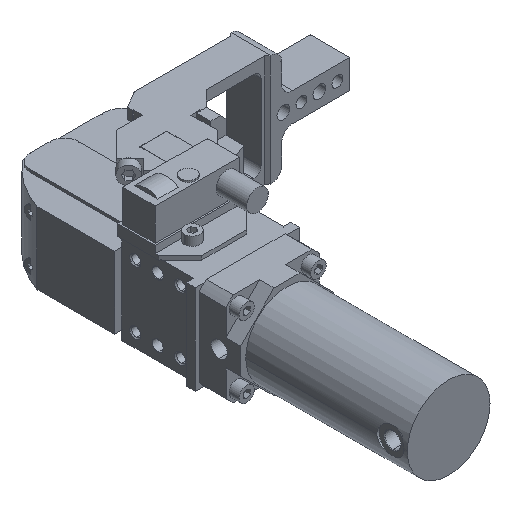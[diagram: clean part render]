
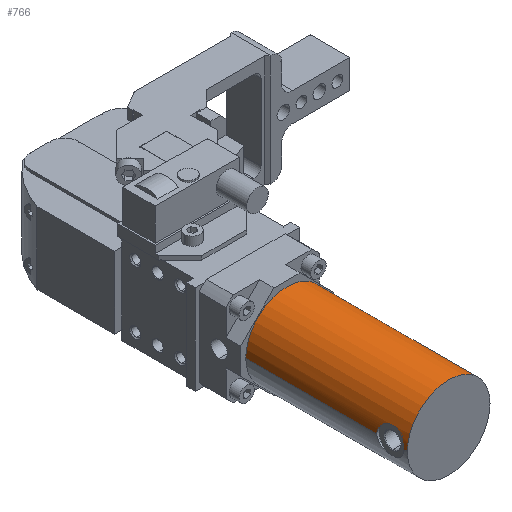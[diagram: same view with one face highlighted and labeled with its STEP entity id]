
A CAD part, isometric view. The second image highlights one B-rep face of the part: STEP entity #766.
In plain terms, the highlighted cylindrical face has radius 23 mm (diameter 46 mm), a partial arc.
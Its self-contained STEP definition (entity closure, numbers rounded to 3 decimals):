
#59 = CARTESIAN_POINT ( 'NONE',  ( -7.332, 101.922, 21.8 ) ) ;
#124 = CARTESIAN_POINT ( 'NONE',  ( -7.241, 101.501, 21.83 ) ) ;
#162 = CARTESIAN_POINT ( 'NONE',  ( -3.855, 97.063, 22.675 ) ) ;
#181 = CARTESIAN_POINT ( 'NONE',  ( -3.302, 96.753, 22.765 ) ) ;
#234 = CARTESIAN_POINT ( 'NONE',  ( -2.917, 96.577, 22.818 ) ) ;
#251 = CARTESIAN_POINT ( 'NONE',  ( -6.609, 99.929, 22.031 ) ) ;
#284 = CARTESIAN_POINT ( 'NONE',  ( -6.799, 100.305, 21.973 ) ) ;
#350 = CARTESIAN_POINT ( 'NONE',  ( -7.115, 101.09, 21.873 ) ) ;
#367 = CARTESIAN_POINT ( 'NONE',  ( -5.903, 98.869, 22.23 ) ) ;
#380 = CARTESIAN_POINT ( 'NONE',  ( -6.156, 99.21, 22.161 ) ) ;
#472 = CARTESIAN_POINT ( 'NONE',  ( -6.276, 99.388, 22.128 ) ) ;
#495 = CARTESIAN_POINT ( 'NONE',  ( -5.051, 97.94, 22.441 ) ) ;
#587 = CARTESIAN_POINT ( 'NONE',  ( -5.354, 98.231, 22.37 ) ) ;
#621 = CARTESIAN_POINT ( 'NONE',  ( -5.771, 98.705, 22.265 ) ) ;
#678 = CARTESIAN_POINT ( 'NONE',  ( -4.558, 97.54, 22.545 ) ) ;
#693 = CARTESIAN_POINT ( 'NONE',  ( -4.386, 97.412, 22.579 ) ) ;
#708 = CARTESIAN_POINT ( 'NONE',  ( -4.035, 97.174, 22.644 ) ) ;
#766 = ADVANCED_FACE ( 'NONE', ( #12748 ), #12664, .T. ) ;
#794 = CARTESIAN_POINT ( 'NONE',  ( -2.312, 96.362, 22.884 ) ) ;
#810 = CARTESIAN_POINT ( 'NONE',  ( -2.106, 96.299, 22.904 ) ) ;
#899 = CARTESIAN_POINT ( 'NONE',  ( -1.693, 96.191, 22.939 ) ) ;
#932 = CARTESIAN_POINT ( 'NONE',  ( -1.485, 96.145, 22.953 ) ) ;
#1009 = CARTESIAN_POINT ( 'NONE',  ( -0.856, 96.037, 22.988 ) ) ;
#1027 = CARTESIAN_POINT ( 'NONE',  ( -0.431, 96., 23. ) ) ;
#1049 = CARTESIAN_POINT ( 'NONE',  ( 0., 96., 23. ) ) ;
#1551 = EDGE_CURVE ( 'NONE', #4452, #2386, #12392, .T. ) ;
#1585 = CARTESIAN_POINT ( 'NONE',  ( 0., 113., 23. ) ) ;
#2128 = AXIS2_PLACEMENT_3D ( 'NONE', #8647, #6946, #5404 ) ;
#2386 = VERTEX_POINT ( 'NONE', #14354 ) ;
#2931 = DIRECTION ( 'NONE',  ( 0., 0., -1. ) ) ;
#2937 = DIRECTION ( 'NONE',  ( 0., -1., 0. ) ) ;
#3011 = CARTESIAN_POINT ( 'NONE',  ( 0., 113., 0. ) ) ;
#3183 = ORIENTED_EDGE ( 'NONE', *, *, #14888, .F. ) ;
#3235 = LINE ( 'NONE', #1585, #11136 ) ;
#3949 = DIRECTION ( 'NONE',  ( 0., -1., 0. ) ) ;
#3967 = CARTESIAN_POINT ( 'NONE',  ( -7.332, 113., 21.8 ) ) ;
#3984 = LINE ( 'NONE', #3967, #10669 ) ;
#3988 = ORIENTED_EDGE ( 'NONE', *, *, #6975, .F. ) ;
#4142 = CIRCLE ( 'NONE', #2128, 23. ) ;
#4180 = AXIS2_PLACEMENT_3D ( 'NONE', #9432, #7725, #6186 ) ;
#4452 = VERTEX_POINT ( 'NONE', #8466 ) ;
#4539 = VERTEX_POINT ( 'NONE', #5513 ) ;
#5134 = EDGE_CURVE ( 'NONE', #10364, #4539, #5431, .T. ) ;
#5141 = VERTEX_POINT ( 'NONE', #9963 ) ;
#5404 = DIRECTION ( 'NONE',  ( 0., 0., 1. ) ) ;
#5431 = B_SPLINE_CURVE_WITH_KNOTS ( 'NONE', 3,
 ( #10591, #10314, #10282, #10272, #10263, #10250, #10235, #10225, #10214, #10187, #10171, #10162, #10118, #10095, #10083, #10070 ),
 .UNSPECIFIED., .F., .F.,
 ( 4, 2, 2, 2, 2, 2, 2, 4 ),
 ( 0., 0.003, 0.004, 0.005, 0.006, 0.008, 0.009, 0.01 ),
 .UNSPECIFIED. ) ;
#5513 = CARTESIAN_POINT ( 'NONE',  ( 0., 111., 23. ) ) ;
#5532 = CARTESIAN_POINT ( 'NONE',  ( 0., 23., -23. ) ) ;
#5666 = EDGE_CURVE ( 'NONE', #10364, #2386, #3984, .T. ) ;
#5804 = CIRCLE ( 'NONE', #4180, 23. ) ;
#6186 = DIRECTION ( 'NONE',  ( 0., 0., 1. ) ) ;
#6245 = VERTEX_POINT ( 'NONE', #5532 ) ;
#6572 = VECTOR ( 'NONE', #8085, 1000. ) ;
#6946 = DIRECTION ( 'NONE',  ( 0., 1., 0. ) ) ;
#6975 = EDGE_CURVE ( 'NONE', #5141, #4539, #3235, .T. ) ;
#7282 = ORIENTED_EDGE ( 'NONE', *, *, #5666, .F. ) ;
#7445 = EDGE_CURVE ( 'NONE', #4452, #14040, #11131, .T. ) ;
#7565 = EDGE_LOOP ( 'NONE', ( #3988, #3183, #7799, #9654, #7888, #8873, #7282, #8322 ) ) ;
#7605 = EDGE_CURVE ( 'NONE', #14521, #6245, #14344, .T. ) ;
#7725 = DIRECTION ( 'NONE',  ( 0., 1., 0. ) ) ;
#7799 = ORIENTED_EDGE ( 'NONE', *, *, #7605, .T. ) ;
#7888 = ORIENTED_EDGE ( 'NONE', *, *, #7445, .F. ) ;
#8085 = DIRECTION ( 'NONE',  ( 0., -1., 0. ) ) ;
#8322 = ORIENTED_EDGE ( 'NONE', *, *, #5134, .T. ) ;
#8466 = CARTESIAN_POINT ( 'NONE',  ( 0., 96., 23. ) ) ;
#8647 = CARTESIAN_POINT ( 'NONE',  ( 0., 113., 0. ) ) ;
#8873 = ORIENTED_EDGE ( 'NONE', *, *, #1551, .T. ) ;
#9330 = VECTOR ( 'NONE', #10248, 1000. ) ;
#9432 = CARTESIAN_POINT ( 'NONE',  ( 0., 23., 0. ) ) ;
#9654 = ORIENTED_EDGE ( 'NONE', *, *, #13364, .T. ) ;
#9729 = CARTESIAN_POINT ( 'NONE',  ( 0., 113., 23. ) ) ;
#9963 = CARTESIAN_POINT ( 'NONE',  ( 0., 113., 23. ) ) ;
#10070 = CARTESIAN_POINT ( 'NONE',  ( 0., 111., 23. ) ) ;
#10083 = CARTESIAN_POINT ( 'NONE',  ( -0.432, 111., 23. ) ) ;
#10095 = CARTESIAN_POINT ( 'NONE',  ( -0.859, 110.963, 22.988 ) ) ;
#10118 = CARTESIAN_POINT ( 'NONE',  ( -1.696, 110.818, 22.941 ) ) ;
#10162 = CARTESIAN_POINT ( 'NONE',  ( -2.108, 110.71, 22.907 ) ) ;
#10171 = CARTESIAN_POINT ( 'NONE',  ( -2.917, 110.423, 22.818 ) ) ;
#10187 = CARTESIAN_POINT ( 'NONE',  ( -3.304, 110.246, 22.764 ) ) ;
#10214 = CARTESIAN_POINT ( 'NONE',  ( -4.04, 109.833, 22.646 ) ) ;
#10225 = CARTESIAN_POINT ( 'NONE',  ( -4.389, 109.597, 22.58 ) ) ;
#10235 = CARTESIAN_POINT ( 'NONE',  ( -5.05, 109.061, 22.441 ) ) ;
#10248 = DIRECTION ( 'NONE',  ( 0., -1., 0. ) ) ;
#10250 = CARTESIAN_POINT ( 'NONE',  ( -5.356, 108.767, 22.37 ) ) ;
#10263 = CARTESIAN_POINT ( 'NONE',  ( -5.911, 108.136, 22.229 ) ) ;
#10272 = CARTESIAN_POINT ( 'NONE',  ( -6.162, 107.797, 22.16 ) ) ;
#10282 = CARTESIAN_POINT ( 'NONE',  ( -6.834, 106.706, 21.966 ) ) ;
#10314 = CARTESIAN_POINT ( 'NONE',  ( -7.151, 105.921, 21.861 ) ) ;
#10364 = VERTEX_POINT ( 'NONE', #11480 ) ;
#10591 = CARTESIAN_POINT ( 'NONE',  ( -7.332, 105.078, 21.8 ) ) ;
#10669 = VECTOR ( 'NONE', #3949, 1000. ) ;
#11131 = LINE ( 'NONE', #9729, #6572 ) ;
#11136 = VECTOR ( 'NONE', #12941, 1000. ) ;
#11231 = CARTESIAN_POINT ( 'NONE',  ( 0., 113., -23. ) ) ;
#11480 = CARTESIAN_POINT ( 'NONE',  ( -7.332, 105.078, 21.8 ) ) ;
#11548 = CARTESIAN_POINT ( 'NONE',  ( 0., 113., -23. ) ) ;
#12392 = B_SPLINE_CURVE_WITH_KNOTS ( 'NONE', 3,
 ( #1049, #1027, #1009, #932, #899, #810, #794, #234, #181, #162, #708, #693, #678, #495, #587, #621, #367, #380, #472, #251, #284, #350, #124, #59 ),
 .UNSPECIFIED., .F., .F.,
 ( 4, 2, 2, 2, 2, 2, 2, 2, 2, 2, 2, 4 ),
 ( 0.01, 0.011, 0.012, 0.013, 0.014, 0.015, 0.015, 0.017, 0.017, 0.018, 0.019, 0.02 ),
 .UNSPECIFIED. ) ;
#12664 = CYLINDRICAL_SURFACE ( 'NONE', #13276, 23. ) ;
#12748 = FACE_OUTER_BOUND ( 'NONE', #7565, .T. ) ;
#12941 = DIRECTION ( 'NONE',  ( 0., -1., 0. ) ) ;
#13276 = AXIS2_PLACEMENT_3D ( 'NONE', #3011, #2937, #2931 ) ;
#13364 = EDGE_CURVE ( 'NONE', #6245, #14040, #5804, .T. ) ;
#14040 = VERTEX_POINT ( 'NONE', #14637 ) ;
#14344 = LINE ( 'NONE', #11548, #9330 ) ;
#14354 = CARTESIAN_POINT ( 'NONE',  ( -7.332, 101.922, 21.8 ) ) ;
#14521 = VERTEX_POINT ( 'NONE', #11231 ) ;
#14637 = CARTESIAN_POINT ( 'NONE',  ( 0., 23., 23. ) ) ;
#14888 = EDGE_CURVE ( 'NONE', #14521, #5141, #4142, .T. ) ;
